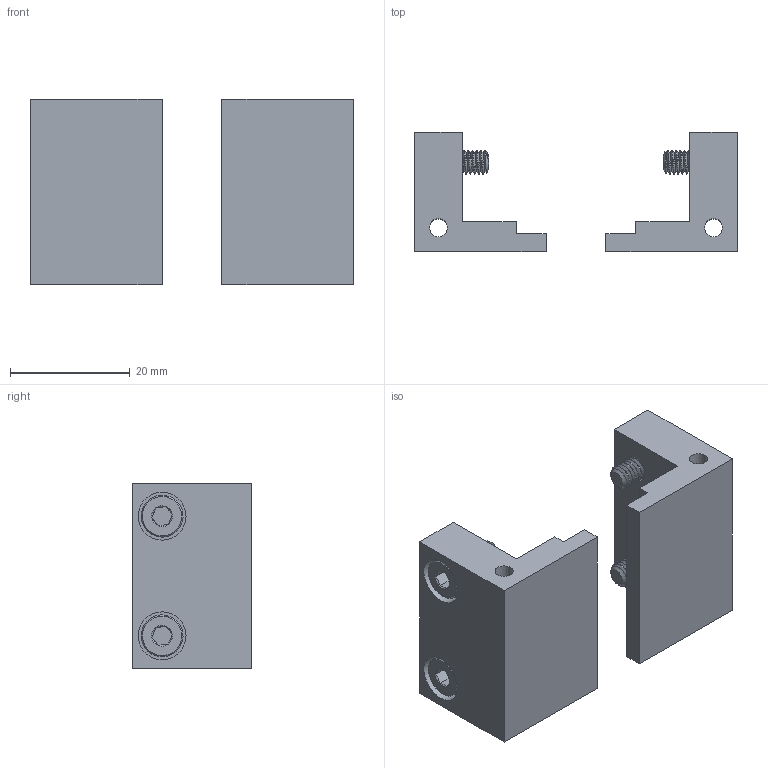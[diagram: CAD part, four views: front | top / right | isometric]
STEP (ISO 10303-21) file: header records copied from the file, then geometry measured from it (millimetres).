
FILE_DESCRIPTION (( 'STEP AP214' ), '1' );
FILE_NAME ('88001441_p.STEP', '2022-04-29T18:22:51', ( '' ), ( '' ), 'SwSTEP 2.0', 'SolidWorks 2018', '' );
FILE_SCHEMA (( 'AUTOMOTIVE_DESIGN' ));
Length unit declared in the file: millimetre
Products named in the file (2): 88001441_p
Bounding box: 54 x 20 x 31 mm (x, y, z)
Surface area: 7873 mm2 (no closed solid volume)
Topology: 0 solids, 10 shells, 160 faces, 392 edges, 244 vertices
Faces by surface type: cylinder 64, plane 56, cone 32, bspline 8
Full cylindrical faces by diameter (mm): 3 x4, 4 x40, 4.5 x4, 7 x4, 8 x4
Entity records: 9547 total; most frequent: CARTESIAN_POINT 5786, DIRECTION 492, ORIENTED_EDGE 436, EDGE_CURVE 236, AXIS2_PLACEMENT_3D 198, EDGE_LOOP 164, VERTEX_POINT 156, FACE_OUTER_BOUND 140
